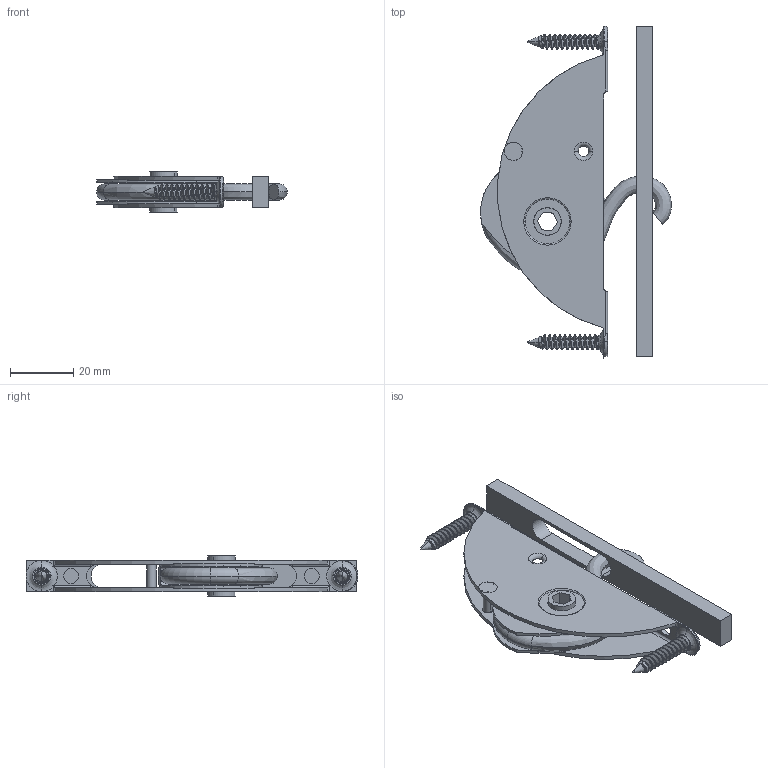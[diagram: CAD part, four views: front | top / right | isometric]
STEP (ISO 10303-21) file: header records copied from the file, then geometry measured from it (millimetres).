
FILE_DESCRIPTION (( 'STEP AP203' ), '1' );
FILE_NAME ('TDS 77-2A.STEP', '2014-04-05T23:17:57', ( 'Owner' ), ( '' ), 'SwSTEP 2.0', 'SolidWorks 2011', '' );
FILE_SCHEMA (( 'CONFIG_CONTROL_DESIGN' ));
Length unit declared in the file: inch
Products named in the file (10): T1 T2 T3 LARGE HEX KEY; TYPE 1 - LARGE ACTUATOR; TDS 77-2A; RECEIVER PLATE; SMALL RIVET_.375 LG; #10 FHPS_90198A316; S HOOK ASSY TDS 77-2A_TDS 36-4A; S-HOOK TDS 77-2A; SPRING PLATE TDS 36-4A; S1250-2S1-750
Assembly tree (10 placements, depth 3):
  TDS 77-2A
    #10 FHPS_90198A316  x2
    RECEIVER PLATE
    SMALL RIVET_.375 LG
    S1250-2S1-750
    S HOOK ASSY TDS 77-2A_TDS 36-4A
      SPRING PLATE TDS 36-4A
      T1 T2 T3 LARGE HEX KEY
      TYPE 1 - LARGE ACTUATOR
      S-HOOK TDS 77-2A
Bounding box: 60.44 x 105.16 x 12.7 mm (x, y, z)
Volume: 15876.4 mm3; surface area: 21608.9 mm2
Topology: 9 solids, 9 shells, 421 faces, 1099 edges, 694 vertices
Faces by surface type: cylinder 164, plane 135, bspline 67, torus 31, cone 24
Entity records: 14356 total; most frequent: CARTESIAN_POINT 5846, ORIENTED_EDGE 1636, DIRECTION 1449, EDGE_CURVE 818, AXIS2_PLACEMENT_3D 534, VERTEX_POINT 518, LINE 381, VECTOR 381
